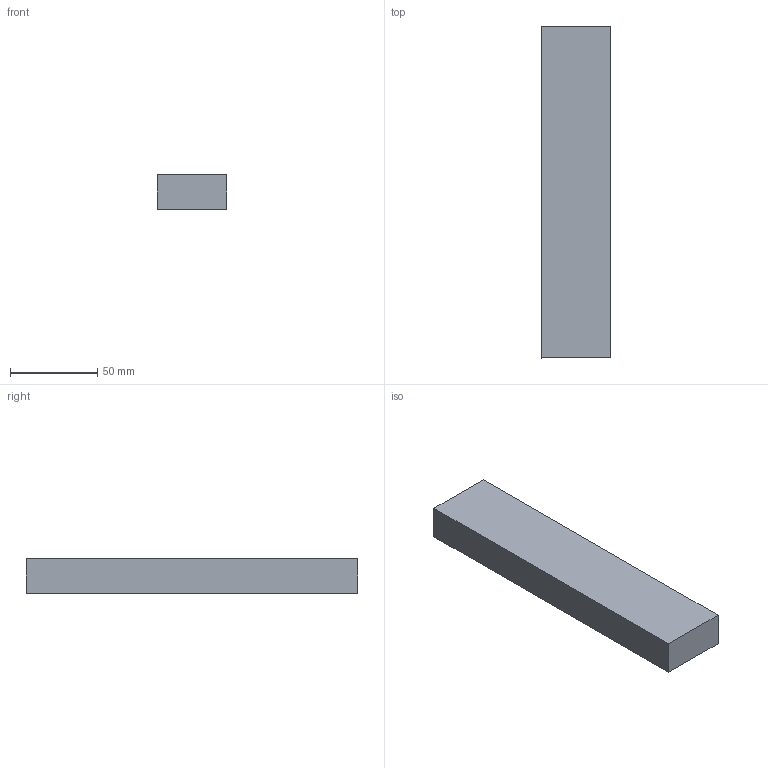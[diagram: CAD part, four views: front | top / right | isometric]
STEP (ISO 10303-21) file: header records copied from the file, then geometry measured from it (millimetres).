
FILE_DESCRIPTION(/* description */ (''),/* implementation_level */ '2;1');
FILE_NAME(/* name */ '3.frame-top#3.6#HFS5-2040-190',/* time_stamp */ '2014-12-01T20:12:21+01:00',/* author */ (''),/* organization */ (''),/* preprocessor_version */ 'ST-DEVELOPER v14',/* originating_system */ '',/* authorisation */ '');
FILE_SCHEMA (('AUTOMOTIVE_DESIGN'));
Length unit declared in the file: millimetre
Products named in the file (1): Document
Bounding box: 40 x 190 x 20 mm (x, y, z)
Volume: 152000 mm3; surface area: 24400 mm2
Topology: 1 solids, 1 shells, 6 faces, 12 edges, 8 vertices
Faces by surface type: plane 6
Entity records: 298 total; most frequent: CARTESIAN_POINT 88, B_SPLINE_CURVE_WITH_KNOTS 36, ORIENTED_EDGE 24, PCURVE 24, DEFINITIONAL_REPRESENTATION 24, SURFACE_CURVE 12, EDGE_CURVE 12, DIRECTION 10
